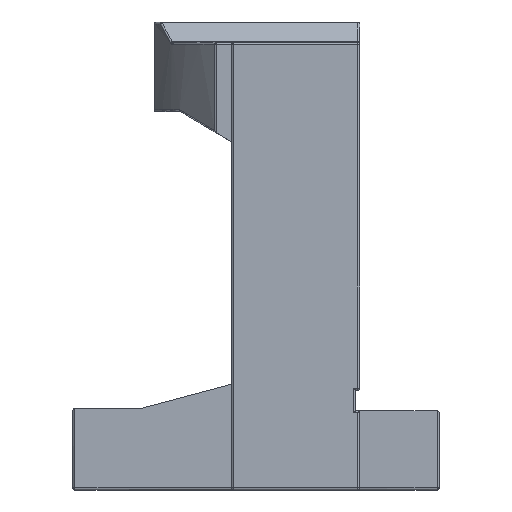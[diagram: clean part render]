
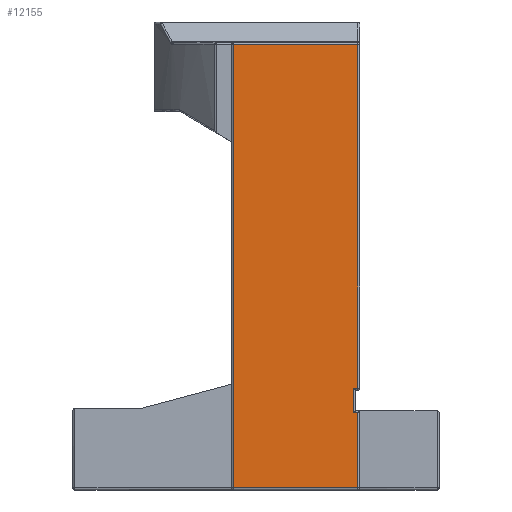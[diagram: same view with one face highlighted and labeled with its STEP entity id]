
A CAD part, left-side view. The second image highlights one B-rep face of the part: STEP entity #12155.
In plain terms, the highlighted planar face has unit normal (-1, 0, 0).
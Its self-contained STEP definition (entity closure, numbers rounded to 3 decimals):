
#546 = DIRECTION ( 'NONE',  ( 0., 0., 1. ) ) ;
#547 = CARTESIAN_POINT ( 'NONE',  ( -100., -50., 40. ) ) ;
#553 = DIRECTION ( 'NONE',  ( 0., 1., 0. ) ) ;
#554 = CARTESIAN_POINT ( 'NONE',  ( -100., 100., 219. ) ) ;
#608 = DIRECTION ( 'NONE',  ( 0., 0., 1. ) ) ;
#610 = CARTESIAN_POINT ( 'NONE',  ( -100., -50., 39. ) ) ;
#611 = DIRECTION ( 'NONE',  ( 0., 1., 0. ) ) ;
#612 = CARTESIAN_POINT ( 'NONE',  ( -100., 100., 38. ) ) ;
#632 = DIRECTION ( 'NONE',  ( 0., -1., 0. ) ) ;
#633 = CARTESIAN_POINT ( 'NONE',  ( -100., 100., 1. ) ) ;
#634 = DIRECTION ( 'NONE',  ( 0., 0., -1. ) ) ;
#635 = CARTESIAN_POINT ( 'NONE',  ( -100., 11., 40. ) ) ;
#992 = DIRECTION ( 'NONE',  ( 0., 0., 1. ) ) ;
#995 = CARTESIAN_POINT ( 'NONE',  ( -100., -48., 40. ) ) ;
#998 = DIRECTION ( 'NONE',  ( 0., -1., 0. ) ) ;
#999 = CARTESIAN_POINT ( 'NONE',  ( -100., 100., 50. ) ) ;
#1900 = DIRECTION ( 'NONE',  ( 0., 1., 0. ) ) ;
#1902 = DIRECTION ( 'NONE',  ( 1., 0., 0. ) ) ;
#1903 = CARTESIAN_POINT ( 'NONE',  ( -100., 100., 40. ) ) ;
#1904 = PLANE ( 'NONE',  #12538 ) ;
#2295 = EDGE_CURVE ( 'NONE', #8190, #8189, #8950, .T. ) ;
#2296 = EDGE_CURVE ( 'NONE', #8191, #8190, #8951, .T. ) ;
#2387 = EDGE_CURVE ( 'NONE', #8195, #8194, #9003, .T. ) ;
#2388 = EDGE_CURVE ( 'NONE', #8194, #8193, #9004, .T. ) ;
#2396 = EDGE_CURVE ( 'NONE', #8192, #8191, #9012, .T. ) ;
#2397 = EDGE_CURVE ( 'NONE', #8193, #8192, #9013, .T. ) ;
#2414 = EDGE_CURVE ( 'NONE', #8188, #8195, #9026, .T. ) ;
#2417 = EDGE_CURVE ( 'NONE', #8189, #8188, #9029, .T. ) ;
#3864 = FACE_OUTER_BOUND ( 'NONE', #9976, .T. ) ;
#6881 = VECTOR ( 'NONE', #634, 1000. ) ;
#6882 = VECTOR ( 'NONE', #632, 1000. ) ;
#6890 = VECTOR ( 'NONE', #611, 1000. ) ;
#6891 = VECTOR ( 'NONE', #608, 1000. ) ;
#6909 = VECTOR ( 'NONE', #553, 1000. ) ;
#6912 = VECTOR ( 'NONE', #546, 1000. ) ;
#8188 = VERTEX_POINT ( 'NONE', #9351 ) ;
#8189 = VERTEX_POINT ( 'NONE', #9349 ) ;
#8190 = VERTEX_POINT ( 'NONE', #9347 ) ;
#8191 = VERTEX_POINT ( 'NONE', #9346 ) ;
#8192 = VERTEX_POINT ( 'NONE', #9345 ) ;
#8193 = VERTEX_POINT ( 'NONE', #9344 ) ;
#8194 = VERTEX_POINT ( 'NONE', #9342 ) ;
#8195 = VERTEX_POINT ( 'NONE', #9341 ) ;
#8950 = LINE ( 'NONE', #999, #12793 ) ;
#8951 = LINE ( 'NONE', #995, #12792 ) ;
#9003 = LINE ( 'NONE', #635, #6881 ) ;
#9004 = LINE ( 'NONE', #633, #6882 ) ;
#9012 = LINE ( 'NONE', #612, #6890 ) ;
#9013 = LINE ( 'NONE', #610, #6891 ) ;
#9026 = LINE ( 'NONE', #554, #6909 ) ;
#9029 = LINE ( 'NONE', #547, #6912 ) ;
#9341 = CARTESIAN_POINT ( 'NONE',  ( -100., 11., 219. ) ) ;
#9342 = CARTESIAN_POINT ( 'NONE',  ( -100., 11., 1. ) ) ;
#9344 = CARTESIAN_POINT ( 'NONE',  ( -100., -50., 1. ) ) ;
#9345 = CARTESIAN_POINT ( 'NONE',  ( -100., -50., 38. ) ) ;
#9346 = CARTESIAN_POINT ( 'NONE',  ( -100., -48., 38. ) ) ;
#9347 = CARTESIAN_POINT ( 'NONE',  ( -100., -48., 50. ) ) ;
#9349 = CARTESIAN_POINT ( 'NONE',  ( -100., -50., 50. ) ) ;
#9351 = CARTESIAN_POINT ( 'NONE',  ( -100., -50., 219. ) ) ;
#9976 = EDGE_LOOP ( 'NONE', ( #11776, #11785, #11786, #11784, #11783, #11667, #11666, #11665 ) ) ;
#11665 = ORIENTED_EDGE ( 'NONE', *, *, #2414, .T. ) ;
#11666 = ORIENTED_EDGE ( 'NONE', *, *, #2417, .T. ) ;
#11667 = ORIENTED_EDGE ( 'NONE', *, *, #2295, .T. ) ;
#11776 = ORIENTED_EDGE ( 'NONE', *, *, #2387, .T. ) ;
#11783 = ORIENTED_EDGE ( 'NONE', *, *, #2296, .T. ) ;
#11784 = ORIENTED_EDGE ( 'NONE', *, *, #2396, .T. ) ;
#11785 = ORIENTED_EDGE ( 'NONE', *, *, #2388, .T. ) ;
#11786 = ORIENTED_EDGE ( 'NONE', *, *, #2397, .T. ) ;
#12155 = ADVANCED_FACE ( 'NONE', ( #3864 ), #1904, .F. ) ;
#12538 = AXIS2_PLACEMENT_3D ( 'NONE', #1903, #1902, #1900 ) ;
#12792 = VECTOR ( 'NONE', #992, 1000. ) ;
#12793 = VECTOR ( 'NONE', #998, 1000. ) ;
